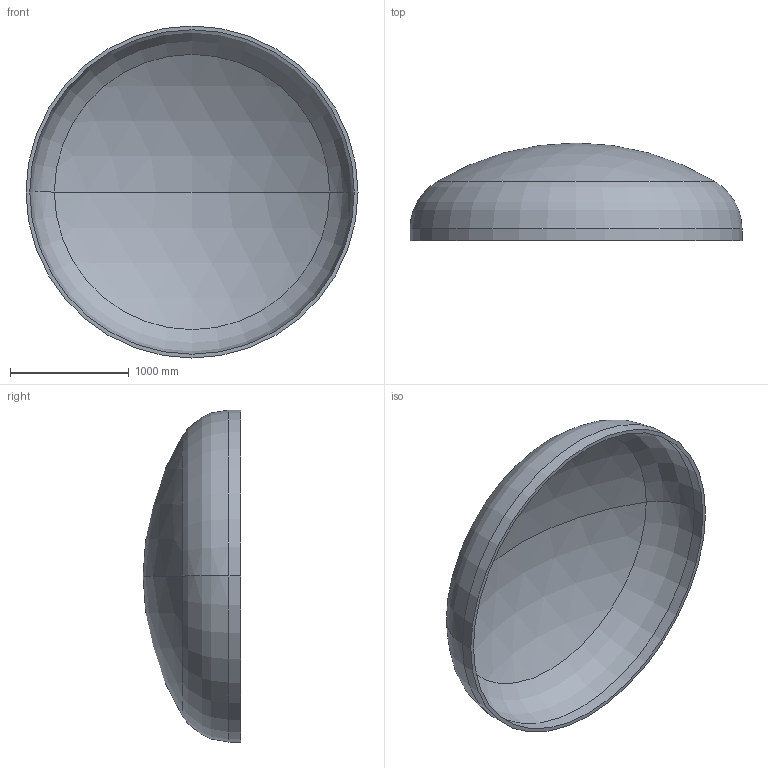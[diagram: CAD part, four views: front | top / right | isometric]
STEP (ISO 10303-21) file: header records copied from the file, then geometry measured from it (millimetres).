
FILE_DESCRIPTION (( 'STEP AP203' ), '1' );
FILE_NAME ('DIN 28013 Korbbogenform_-_Boden DIN 28013 - 2800 x 100 - I - s=32.step', '2016-07-01T16:53:32', ( '' ), ( '' ), 'SwSTEP 2.0', 'SolidWorks 2013', '' );
FILE_SCHEMA (( 'CONFIG_CONTROL_DESIGN' ));
Length unit declared in the file: millimetre
Products named in the file (1): DIN 28013 Korbbogenform_-_Boden DIN 28013 - 2800 x 100 - I - s=32
Bounding box: 2800 x 824.02 x 2800 mm (x, y, z)
Volume: 296485395.5 mm3; surface area: 18810744.9 mm2
Topology: 1 solids, 1 shells, 13 faces, 24 edges, 14 vertices
Faces by surface type: torus 4, cylinder 4, sphere 4, plane 1
Entity records: 407 total; most frequent: DIRECTION 72, CARTESIAN_POINT 52, ORIENTED_EDGE 48, AXIS2_PLACEMENT_3D 34, EDGE_CURVE 24, CIRCLE 20, VERTEX_POINT 14, EDGE_LOOP 14
